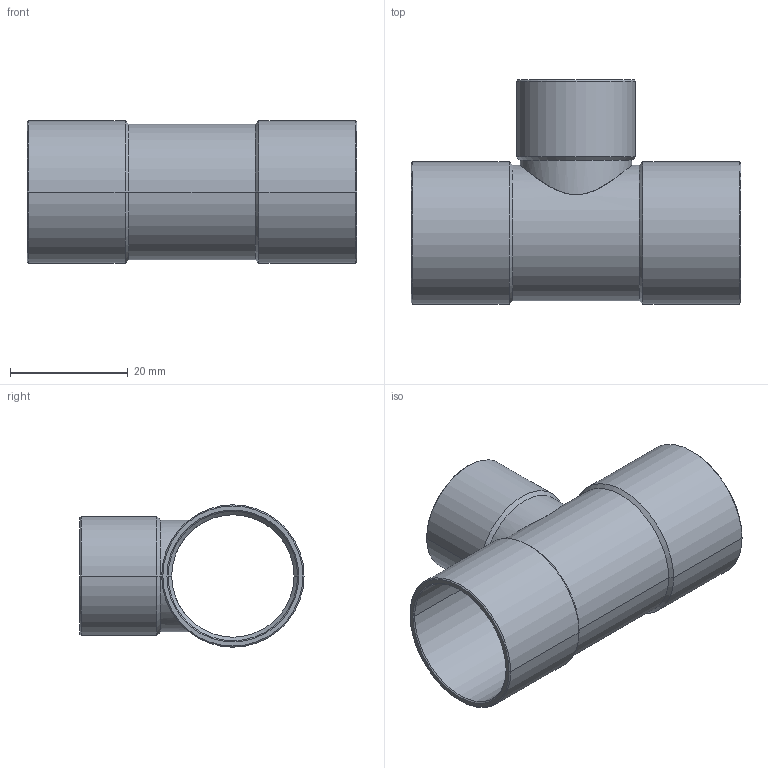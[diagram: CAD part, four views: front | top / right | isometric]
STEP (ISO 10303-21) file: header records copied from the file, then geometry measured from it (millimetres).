
FILE_DESCRIPTION((''),'2;1');
FILE_NAME('P:\Bouwmaten\z-maattekeningen 3D\5000\5130\5130221822.stp','2005-10-26T11:53:49',('Kris'),(''),'Autodesk Inventor 8','Autodesk Inventor 8','');
FILE_SCHEMA(('AUTOMOTIVE_DESIGN { 1 0 10303 214 1 1 1 1 }'));
Length unit declared in the file: millimetre
Products named in the file (1): 5130221822
Bounding box: 56 x 38.1 x 24.2 mm (x, y, z)
Volume: 5119.3 mm3; surface area: 9700.4 mm2
Topology: 1 solids, 1 shells, 49 faces, 110 edges, 62 vertices
Faces by surface type: cone 20, cylinder 16, bspline 10, plane 3
Entity records: 2139 total; most frequent: CARTESIAN_POINT 1060, DIRECTION 222, ORIENTED_EDGE 220, EDGE_CURVE 110, AXIS2_PLACEMENT_3D 89, VERTEX_POINT 62, EDGE_LOOP 52, CIRCLE 49
